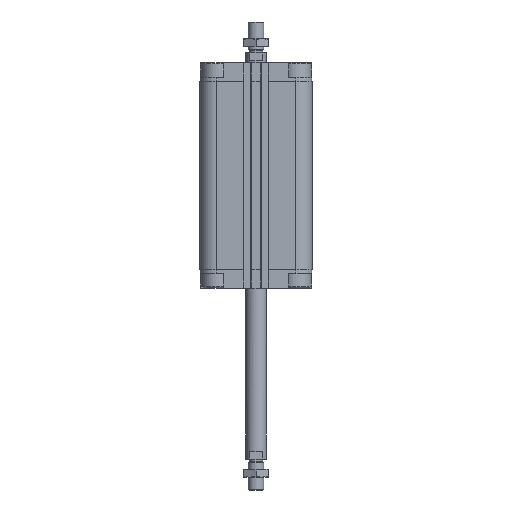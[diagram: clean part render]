
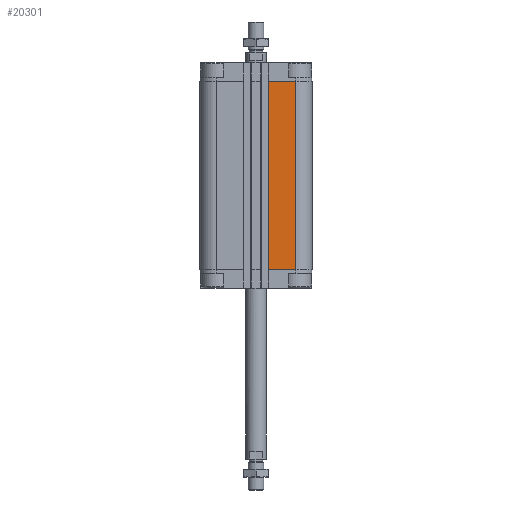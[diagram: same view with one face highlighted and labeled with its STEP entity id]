
A CAD part, front view. The second image highlights one B-rep face of the part: STEP entity #20301.
In plain terms, the highlighted planar face has unit normal (0, -1, 0).
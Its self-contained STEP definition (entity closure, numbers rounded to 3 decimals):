
#585 = VECTOR ( 'NONE', #1671, 1000. ) ;
#834 = VERTEX_POINT ( 'NONE', #18266 ) ;
#898 = ORIENTED_EDGE ( 'NONE', *, *, #16490, .F. ) ;
#1317 = VERTEX_POINT ( 'NONE', #10662 ) ;
#1671 = DIRECTION ( 'NONE',  ( 0., 0., 1. ) ) ;
#1966 = CARTESIAN_POINT ( 'NONE',  ( 31., -43.5, -14.5 ) ) ;
#2261 = AXIS2_PLACEMENT_3D ( 'NONE', #10178, #17044, #9195 ) ;
#3637 = PLANE ( 'NONE',  #2261 ) ;
#4186 = CARTESIAN_POINT ( 'NONE',  ( 10.05, -43.5, -14.5 ) ) ;
#4282 = EDGE_CURVE ( 'NONE', #834, #11813, #20771, .T. ) ;
#5555 = CARTESIAN_POINT ( 'NONE',  ( 10.05, -43.5, -14.5 ) ) ;
#6925 = VECTOR ( 'NONE', #11227, 1000. ) ;
#6930 = EDGE_CURVE ( 'NONE', #1317, #834, #13284, .T. ) ;
#7774 = ORIENTED_EDGE ( 'NONE', *, *, #4282, .T. ) ;
#7890 = ORIENTED_EDGE ( 'NONE', *, *, #12292, .F. ) ;
#9195 = DIRECTION ( 'NONE',  ( -1., 0., 0. ) ) ;
#9539 = DIRECTION ( 'NONE',  ( 1., 0., 0. ) ) ;
#10178 = CARTESIAN_POINT ( 'NONE',  ( 10.05, -43.5, -160.5 ) ) ;
#10662 = CARTESIAN_POINT ( 'NONE',  ( 10.05, -43.5, -160.5 ) ) ;
#10967 = ORIENTED_EDGE ( 'NONE', *, *, #6930, .T. ) ;
#11227 = DIRECTION ( 'NONE',  ( 0., 0., 1. ) ) ;
#11441 = LINE ( 'NONE', #18001, #585 ) ;
#11813 = VERTEX_POINT ( 'NONE', #1966 ) ;
#12292 = EDGE_CURVE ( 'NONE', #1317, #14960, #11441, .T. ) ;
#12547 = DIRECTION ( 'NONE',  ( 1., 0., 0. ) ) ;
#12972 = CARTESIAN_POINT ( 'NONE',  ( 10.05, -43.5, -160.5 ) ) ;
#13192 = VECTOR ( 'NONE', #9539, 1000. ) ;
#13284 = LINE ( 'NONE', #12972, #13192 ) ;
#14382 = LINE ( 'NONE', #4186, #16469 ) ;
#14960 = VERTEX_POINT ( 'NONE', #5555 ) ;
#16469 = VECTOR ( 'NONE', #12547, 1000. ) ;
#16490 = EDGE_CURVE ( 'NONE', #14960, #11813, #14382, .T. ) ;
#17044 = DIRECTION ( 'NONE',  ( 0., -1., 0. ) ) ;
#18001 = CARTESIAN_POINT ( 'NONE',  ( 10.05, -43.5, -160.5 ) ) ;
#18266 = CARTESIAN_POINT ( 'NONE',  ( 31., -43.5, -160.5 ) ) ;
#18343 = FACE_OUTER_BOUND ( 'NONE', #20017, .T. ) ;
#19380 = CARTESIAN_POINT ( 'NONE',  ( 31., -43.5, -160.5 ) ) ;
#20017 = EDGE_LOOP ( 'NONE', ( #898, #7890, #10967, #7774 ) ) ;
#20301 = ADVANCED_FACE ( 'NONE', ( #18343 ), #3637, .T. ) ;
#20771 = LINE ( 'NONE', #19380, #6925 ) ;
